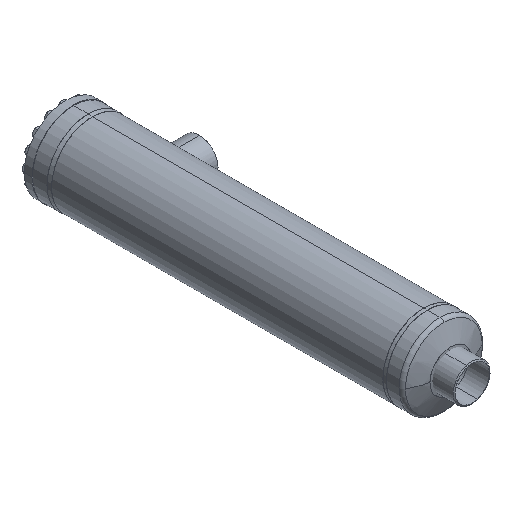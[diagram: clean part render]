
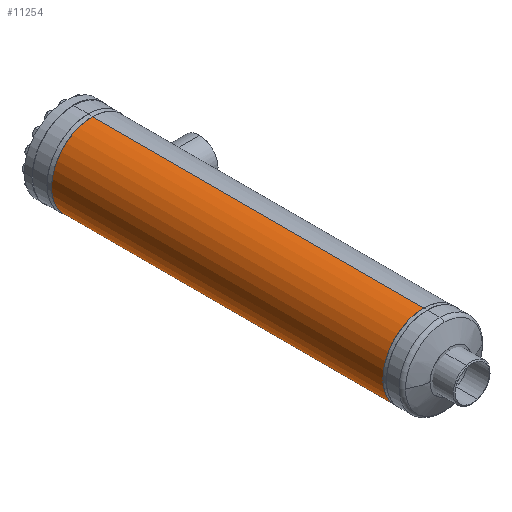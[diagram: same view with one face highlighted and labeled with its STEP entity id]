
A CAD part, isometric view. The second image highlights one B-rep face of the part: STEP entity #11254.
In plain terms, the highlighted cylindrical face has radius 84.15 mm (diameter 168.3 mm), a partial arc.
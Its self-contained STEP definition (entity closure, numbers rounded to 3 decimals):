
#2698 = LINE ( 'NONE', #2699, #2700 ) ;
#2699 = CARTESIAN_POINT ( 'NONE',  ( 0., 0., -84.15 ) ) ;
#2700 = VECTOR ( 'NONE', #2701, 1000. ) ;
#2701 = DIRECTION ( 'NONE',  ( 0., -1., 0. ) ) ;
#3499 = CARTESIAN_POINT ( 'NONE',  ( 0., 3.464, -84.15 ) ) ;
#3541 = CARTESIAN_POINT ( 'NONE',  ( 0., 3.464, 84.15 ) ) ;
#3817 = CIRCLE ( 'NONE', #3818, 84.15 ) ;
#3818 = AXIS2_PLACEMENT_3D ( 'NONE', #3819, #3820, #3821 ) ;
#3819 = CARTESIAN_POINT ( 'NONE',  ( 0., 3.464, 0. ) ) ;
#3820 = DIRECTION ( 'NONE',  ( 0., -1., 0. ) ) ;
#3821 = DIRECTION ( 'NONE',  ( 0., 0., -1. ) ) ;
#3906 = CIRCLE ( 'NONE', #3907, 84.15 ) ;
#3907 = AXIS2_PLACEMENT_3D ( 'NONE', #3908, #3909, #3915 ) ;
#3908 = CARTESIAN_POINT ( 'NONE',  ( 0., 686.536, 0. ) ) ;
#3909 = DIRECTION ( 'NONE',  ( 0., -1., 0. ) ) ;
#3915 = DIRECTION ( 'NONE',  ( 0., 0., -1. ) ) ;
#4109 = LINE ( 'NONE', #4110, #4111 ) ;
#4110 = CARTESIAN_POINT ( 'NONE',  ( 0., 0., 84.15 ) ) ;
#4111 = VECTOR ( 'NONE', #4112, 1000. ) ;
#4112 = DIRECTION ( 'NONE',  ( 0., -1., 0. ) ) ;
#5469 = ORIENTED_EDGE ( 'NONE', *, *, #9938, .T. ) ;
#5928 = VERTEX_POINT ( 'NONE', #3541 ) ;
#5999 = FACE_OUTER_BOUND ( 'NONE', #10999, .T. ) ;
#6000 = CYLINDRICAL_SURFACE ( 'NONE', #6001, 84.15 ) ;
#6001 = AXIS2_PLACEMENT_3D ( 'NONE', #6004, #6005, #6006 ) ;
#6004 = CARTESIAN_POINT ( 'NONE',  ( 0., 0., 0. ) ) ;
#6005 = DIRECTION ( 'NONE',  ( 0., -1., 0. ) ) ;
#6006 = DIRECTION ( 'NONE',  ( 0., 0., -1. ) ) ;
#6096 = EDGE_CURVE ( 'NONE', #9226, #8214, #3906, .T. ) ;
#6154 = EDGE_CURVE ( 'NONE', #9226, #5928, #4109, .T. ) ;
#6342 = CARTESIAN_POINT ( 'NONE',  ( 0., 686.536, -84.15 ) ) ;
#6471 = ORIENTED_EDGE ( 'NONE', *, *, #6096, .T. ) ;
#6954 = ORIENTED_EDGE ( 'NONE', *, *, #6154, .F. ) ;
#7739 = CARTESIAN_POINT ( 'NONE',  ( 0., 686.536, 84.15 ) ) ;
#8214 = VERTEX_POINT ( 'NONE', #6342 ) ;
#9226 = VERTEX_POINT ( 'NONE', #7739 ) ;
#9938 = EDGE_CURVE ( 'NONE', #8214, #10073, #2698, .T. ) ;
#10073 = VERTEX_POINT ( 'NONE', #3499 ) ;
#10103 = EDGE_CURVE ( 'NONE', #5928, #10073, #3817, .T. ) ;
#10420 = ORIENTED_EDGE ( 'NONE', *, *, #10103, .F. ) ;
#10999 = EDGE_LOOP ( 'NONE', ( #6954, #6471, #5469, #10420 ) ) ;
#11254 = ADVANCED_FACE ( 'NONE', ( #5999 ), #6000, .T. ) ;
